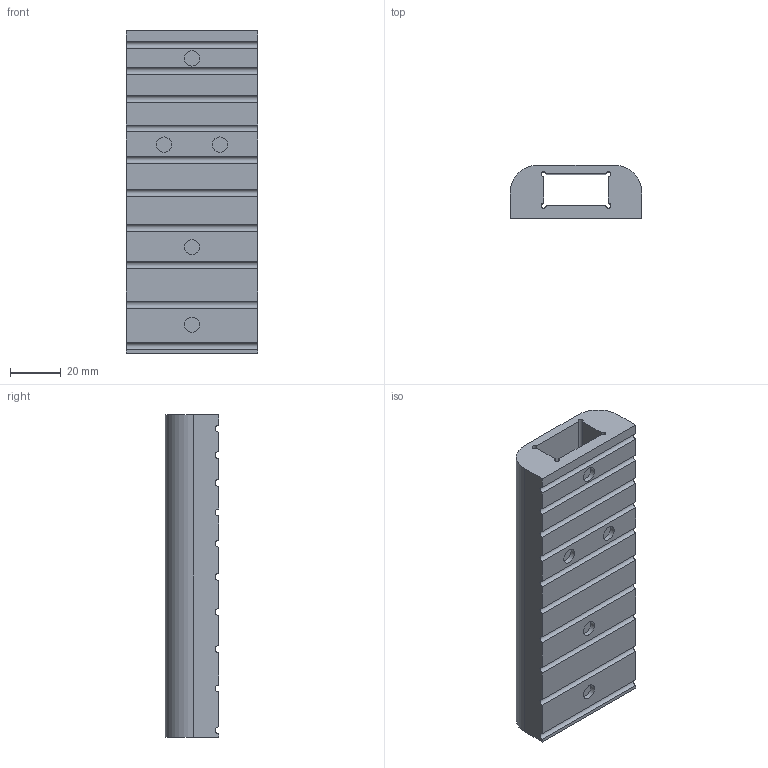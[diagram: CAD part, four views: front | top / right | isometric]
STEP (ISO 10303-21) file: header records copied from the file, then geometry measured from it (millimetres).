
FILE_DESCRIPTION(('STEP AP203'), '1');
FILE_NAME('ëàä 2', '', ('UNSPECIFIED'), ('UNSPECIFIED'), 'ASCON STEP Converter 1.3', 'ASCON Math Kernel', '');
FILE_SCHEMA(('CONFIG_CONTROL_DESIGN'));
Length unit declared in the file: millimetre
Bounding box: 52 x 21 x 127.13 mm (x, y, z)
Volume: 88575 mm3; surface area: 30781.9 mm2
Topology: 1 solids, 1 shells, 46 faces, 117 edges, 78 vertices
Faces by surface type: plane 25, cylinder 21
Full cylindrical faces by diameter (mm): 6 x5
Entity records: 1794 total; most frequent: DIRECTION 248, CARTESIAN_POINT 237, ORIENTED_EDGE 224, EDGE_CURVE 112, AXIS2_PLACEMENT_3D 89, VERTEX_POINT 78, LINE 70, VECTOR 70
